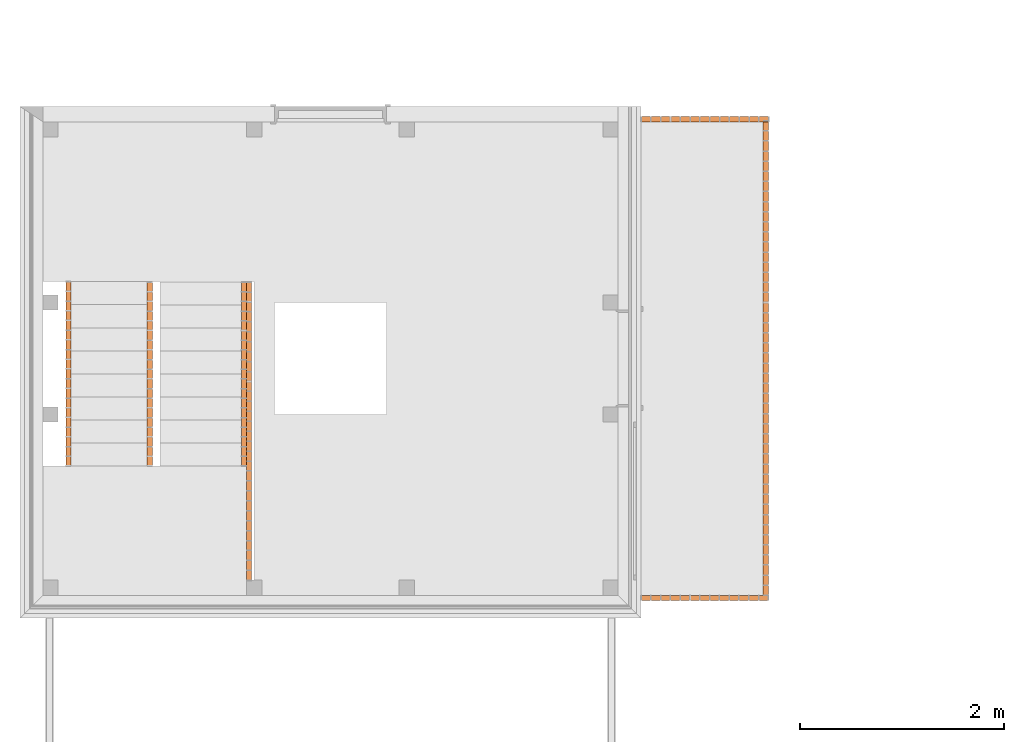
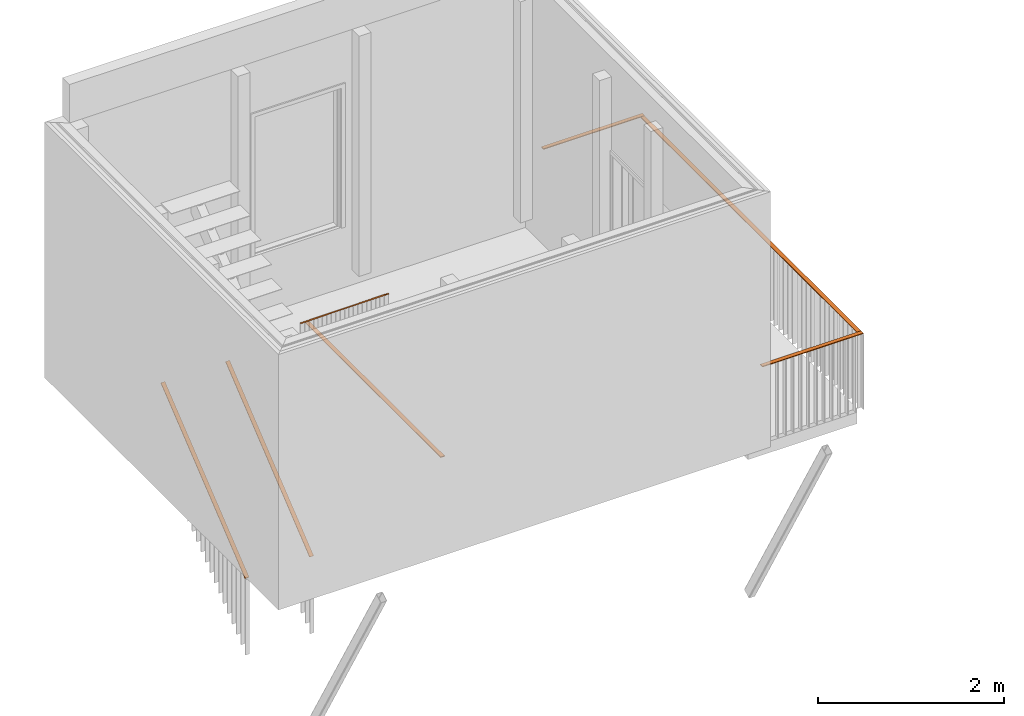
# One storey, part 87 of 100: 7 proxies, 7 elements without a shape of their own.
"""IFC2X3 building model written with IfcOpenShell, lengths in millimetres."""

from ifc_helpers import new_model, entity, si_unit, converted_unit, derived_unit, money_unit, direction, frame, origin_with_axes, place, context, subcontext, project, spatial, faceted_brep, material, type_object, element, aggregate, save


model = new_model("IFC2X3")

# Units and contexts
model_context = context("Model", 3, precision=0.01, world=origin_with_axes(), true_north=direction((0.0, 1.0)))
body_context = subcontext(model_context, "Body", "Model", "MODEL_VIEW")
ifc_project = project(units=[si_unit("LENGTHUNIT", "METRE", prefix="MILLI"), si_unit("AREAUNIT", "SQUARE_METRE"), si_unit("VOLUMEUNIT", "CUBIC_METRE"), converted_unit("PLANEANGLEUNIT", "DEGREE", entity("IfcPlaneAngleMeasure", 0.0174532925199), si_unit("PLANEANGLEUNIT", "RADIAN"), dimensions=[0, 0, 0, 0, 0, 0, 0]), si_unit("SOLIDANGLEUNIT", "STERADIAN"), money_unit("EUR"), converted_unit("TIMEUNIT", "Year", entity("IfcTimeMeasure", 31556926.0), si_unit("TIMEUNIT", "SECOND"), dimensions=[0, 0, 1, 0, 0, 0, 0]), si_unit("MASSUNIT", "GRAM", prefix="KILO"), si_unit("THERMODYNAMICTEMPERATUREUNIT", "DEGREE_CELSIUS"), si_unit("LUMINOUSINTENSITYUNIT", "LUMEN"), si_unit("ENERGYUNIT", "JOULE", prefix="MEGA"), derived_unit("THERMALCONDUCTANCEUNIT", [(si_unit("POWERUNIT", "WATT"), 1), (si_unit("LENGTHUNIT", "METRE"), -1), (si_unit("THERMODYNAMICTEMPERATUREUNIT", "KELVIN"), -1)]), derived_unit("SPECIFICHEATCAPACITYUNIT", [(si_unit("ENERGYUNIT", "JOULE"), 1), (si_unit("MASSUNIT", "GRAM", prefix="KILO"), -1), (si_unit("THERMODYNAMICTEMPERATUREUNIT", "KELVIN"), -1)]), derived_unit("MASSDENSITYUNIT", [(si_unit("MASSUNIT", "GRAM", prefix="KILO"), 1), (si_unit("VOLUMEUNIT", "CUBIC_METRE"), -1)])], contexts=[model_context])

# Site, building, storey
site_placement = place(None, origin_with_axes())
site = spatial("IfcSite", under=ifc_project, at=site_placement, Name="Politse- ja Piirivalveameti ning Päästeameti ühishoone", CompositionType="ELEMENT")
building_placement = place(site_placement, origin_with_axes())
building = spatial("IfcBuilding", under=site, at=building_placement, Name="Politse- ja Piirivalveameti ning Päästeameti ühishoone", CompositionType="ELEMENT")
storey_placement = place(building_placement, frame((0.0, 0.0, 3800.0), z_axis=(0.0, 0.0, 1.0), x_axis=(1.0, 0.0, 0.0)))
storey = spatial("IfcBuildingStorey", under=building, at=storey_placement, Name="Teine korrus", CompositionType="ELEMENT", Elevation=3800.0)

# Railing, proxy
railing_type = type_object("IfcRailingType", Name="Railing Type", PredefinedType="NOTDEFINED")
railing_1_placement = place(storey_placement, frame((-7483.77309461, -75.0, -549.999987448), z_axis=(0.0, 0.0, 1.0), x_axis=(0.0, 1.0, 0.0)))
railing_1 = element("IfcRailing", 1, at=railing_1_placement, inside=storey, type_object=railing_type, Name="PIIRE 2", PredefinedType="NOTDEFINED")
ifc_material = material(Name="Teras - Konstruktsioon")
building_element_proxy_type = type_object("IfcBuildingElementProxyType", Name="IfcBuildingElementProxy", PredefinedType="NOTDEFINED")
proxy_1_placement = place(railing_1_placement, frame((-25.0, 197.925677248, 973.074175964), z_axis=(0.0, 0.0, 1.0), x_axis=(0.0, -1.0, 0.0)))
proxy_1 = element("IfcBuildingElementProxy", 2, at=proxy_1_placement, type_object=building_element_proxy_type, material=ifc_material, Name="Piirde Ülaosa - 001", context=body_context, shape_type="Brep", body=[
    faceted_brep([(625.0, 25.0, 26.9258240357), (625.0, 25.0, 16.9258240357), (-625.0, 25.0, 16.9258240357), (-625.0, 25.0, 26.9258240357), (625.0, -25.0, 26.9258240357), (625.0, -25.0, 16.9258240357), (-625.0, -25.0, 16.9258240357), (-625.0, -25.0, 26.9258240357)], [[[0, 1, 2, 3]], [[0, 4, 5, 1]], [[1, 5, 6, 2]], [[3, 2, 6, 7]], [[4, 0, 3, 7]], [[5, 4, 7, 6]]]),
])
aggregate(railing_1, [proxy_1])

railing_2_placement = place(storey_placement, frame((-12181.9616228, 2843.99975677, -499.999968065), z_axis=(0.0, 0.0, 1.0), x_axis=(1.0, 0.0, 0.0)))
railing_2 = element("IfcRailing", 3, at=railing_2_placement, inside=storey, type_object=railing_type, Name="PIIRE 2", PredefinedType="NOTDEFINED")
proxy_2_placement = place(railing_2_placement, frame((25.0, -1307.44809363, 973.074175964), z_axis=(0.0, 0.0, 1.0), x_axis=(1.0, 0.0, 0.0)))
proxy_2 = element("IfcBuildingElementProxy", 4, at=proxy_2_placement, type_object=building_element_proxy_type, material=ifc_material, Name="Piirde Ülaosa - 001", context=body_context, shape_type="Brep", body=[
    faceted_brep([(-25.0, 1464.37552083, 26.9258240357), (-25.0, 1464.37552083, 16.9258240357), (-25.0, -1464.37552083, 16.9258240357), (-25.0, -1464.37552083, 26.9258240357), (25.0, 1464.37552083, 26.9258240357), (25.0, 1464.37552083, 16.9258240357), (25.0, -1464.37552083, 16.9258240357), (25.0, -1464.37552083, 26.9258240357)], [[[0, 1, 2, 3]], [[0, 4, 5, 1]], [[1, 5, 6, 2]], [[3, 2, 6, 7]], [[4, 0, 3, 7]], [[5, 4, 7, 6]]]),
])
aggregate(railing_2, [proxy_2])

railing_3_placement = place(storey_placement, frame((-13107.2062017, 2701.0725728, -2150.0), z_axis=(0.0, 0.0, 1.0), x_axis=(1.0, 0.0, 0.0)))
railing_3 = element("IfcRailing", 5, at=railing_3_placement, inside=storey, type_object=railing_type, Name="PIIRE 2", PredefinedType="NOTDEFINED")
proxy_3_placement = place(railing_3_placement, frame((-25.0, -602.858980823, 973.074175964), z_axis=(0.0, 0.0, 1.0), x_axis=(1.0, 0.0, 0.0)))
proxy_3 = element("IfcBuildingElementProxy", 6, at=proxy_3_placement, type_object=building_element_proxy_type, material=ifc_material, Name="Piirde Ülaosa - 001", context=body_context, shape_type="Brep", body=[
    faceted_brep([(-25.0, 902.713591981, 1493.5924907), (-25.0, 909.018889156, 1485.83083962), (-25.0, -896.408294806, 19.1641729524), (-25.0, -902.713591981, 26.9258240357), (25.0, 902.713591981, 1493.5924907), (25.0, 909.018889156, 1485.83083962), (25.0, -896.408294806, 19.1641729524), (25.0, -902.713591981, 26.9258240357)], [[[0, 1, 2, 3]], [[0, 4, 5, 1]], [[1, 5, 6, 2]], [[3, 2, 6, 7]], [[4, 0, 3, 7]], [[5, 4, 7, 6]]]),
])
aggregate(railing_3, [proxy_3])

railing_4_placement = place(storey_placement, frame((-13957.0653854, 2701.0725728, -2150.0), z_axis=(0.0, 0.0, 1.0), x_axis=(1.0, 0.0, 0.0)))
railing_4 = element("IfcRailing", 7, at=railing_4_placement, inside=storey, type_object=railing_type, Name="PIIRE 2", PredefinedType="NOTDEFINED")
proxy_4_placement = place(railing_4_placement, frame((25.0, -600.723818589, 973.074175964), z_axis=(0.0, 0.0, 1.0), x_axis=(1.0, 0.0, 0.0)))
proxy_4 = element("IfcBuildingElementProxy", 8, at=proxy_4_placement, type_object=building_element_proxy_type, material=ifc_material, Name="Piirde Ülaosa - 001", context=body_context, shape_type="Brep", body=[
    faceted_brep([(-25.0, 904.848754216, 1493.5924907), (-25.0, 911.145075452, 1485.82355648), (-25.0, -898.552432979, 19.1568898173), (-25.0, -904.848754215, 26.9258240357), (25.0, 904.848754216, 1493.5924907), (25.0, 911.145075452, 1485.82355648), (25.0, -898.552432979, 19.1568898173), (25.0, -904.848754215, 26.9258240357)], [[[0, 1, 2, 3]], [[0, 4, 5, 1]], [[1, 5, 6, 2]], [[3, 2, 6, 7]], [[4, 0, 3, 7]], [[5, 4, 7, 6]]]),
])
aggregate(railing_4, [proxy_4])

railing_5_placement = place(storey_placement, frame((-7483.77309461, 4575.4616888, -549.999987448), z_axis=(0.0, 0.0, 1.0), x_axis=(0.0, 1.0, 0.0)))
railing_5 = element("IfcRailing", 9, at=railing_5_placement, inside=storey, type_object=railing_type, Name="PIIRE 2", PredefinedType="NOTDEFINED")
proxy_5_placement = place(railing_5_placement, frame((25.0, 196.235838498, 973.074175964), z_axis=(0.0, 0.0, 1.0), x_axis=(0.0, -1.0, 0.0)))
proxy_5 = element("IfcBuildingElementProxy", 10, at=proxy_5_placement, type_object=building_element_proxy_type, material=ifc_material, Name="Piirde Ülaosa - 001", context=body_context, shape_type="Brep", body=[
    faceted_brep([(626.68983875, 25.0, 26.9258240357), (626.68983875, 25.0, 16.9258240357), (-626.68983875, 25.0, 16.9258240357), (-626.68983875, 25.0, 26.9258240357), (626.68983875, -25.0, 26.9258240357), (626.68983875, -25.0, 16.9258240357), (-626.68983875, -25.0, 16.9258240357), (-626.68983875, -25.0, 26.9258240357)], [[[0, 1, 2, 3]], [[0, 4, 5, 1]], [[1, 5, 6, 2]], [[3, 2, 6, 7]], [[4, 0, 3, 7]], [[5, 4, 7, 6]]]),
])
aggregate(railing_5, [proxy_5])

railing_6_placement = place(storey_placement, frame((-7106.69877185, 4799.53601155, -549.999987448), z_axis=(0.0, 0.0, 1.0), x_axis=(1.0, 0.0, 0.0)))
railing_6 = element("IfcRailing", 11, at=railing_6_placement, inside=storey, type_object=railing_type, Name="PIIRE 2", PredefinedType="NOTDEFINED")
proxy_6_placement = place(railing_6_placement, frame((25.0, -2544.26737279, 973.074175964), z_axis=(0.0, 0.0, 1.0), x_axis=(1.0, 0.0, 0.0)))
proxy_6 = element("IfcBuildingElementProxy", 12, at=proxy_6_placement, type_object=building_element_proxy_type, material=ifc_material, Name="Piirde Ülaosa - 001", context=body_context, shape_type="Brep", body=[
    faceted_brep([(25.0, -2330.26863876, 26.9258240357), (25.0, -2330.26863876, 16.9258240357), (25.0, 2330.26863876, 16.9258240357), (25.0, 2330.26863876, 26.9258240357), (-25.0, -2330.26863876, 26.9258240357), (-25.0, -2330.26863876, 16.9258240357), (-25.0, 2330.26863876, 16.9258240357), (-25.0, 2330.26863876, 26.9258240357)], [[[0, 1, 2, 3]], [[0, 4, 5, 1]], [[1, 5, 6, 2]], [[3, 2, 6, 7]], [[4, 0, 3, 7]], [[5, 4, 7, 6]]]),
])
aggregate(railing_6, [proxy_6])

railing_7_placement = place(storey_placement, frame((-12181.6987719, 2843.99975677, -499.999970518), z_axis=(0.0, 0.0, 1.0), x_axis=(1.0, 0.0, 0.0)))
railing_7 = element("IfcRailing", 13, at=railing_7_placement, inside=storey, type_object=railing_type, Name="PIIRE 2", PredefinedType="NOTDEFINED")
proxy_7_placement = place(railing_7_placement, frame((-25.0, -745.92132702, 973.074175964), z_axis=(0.0, 0.0, 1.0), x_axis=(1.0, 0.0, 0.0)))
proxy_7 = element("IfcBuildingElementProxy", 14, at=proxy_7_placement, type_object=building_element_proxy_type, material=ifc_material, Name="Piirde Ülaosa - 001", context=body_context, shape_type="Brep", body=[
    faceted_brep([(-25.0, 902.578429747, 26.9258240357), (-25.0, 896.27256379, 19.1646350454), (-25.0, -908.884295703, 1485.83130171), (-25.0, -902.578429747, 1493.5924907), (25.0, 902.578429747, 26.9258240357), (25.0, 896.27256379, 19.1646350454), (25.0, -908.884295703, 1485.83130171), (25.0, -902.578429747, 1493.5924907)], [[[0, 1, 2, 3]], [[0, 4, 5, 1]], [[1, 5, 6, 2]], [[3, 2, 6, 7]], [[4, 0, 3, 7]], [[5, 4, 7, 6]]]),
])
aggregate(railing_7, [proxy_7])

save(model, "model.ifc")
